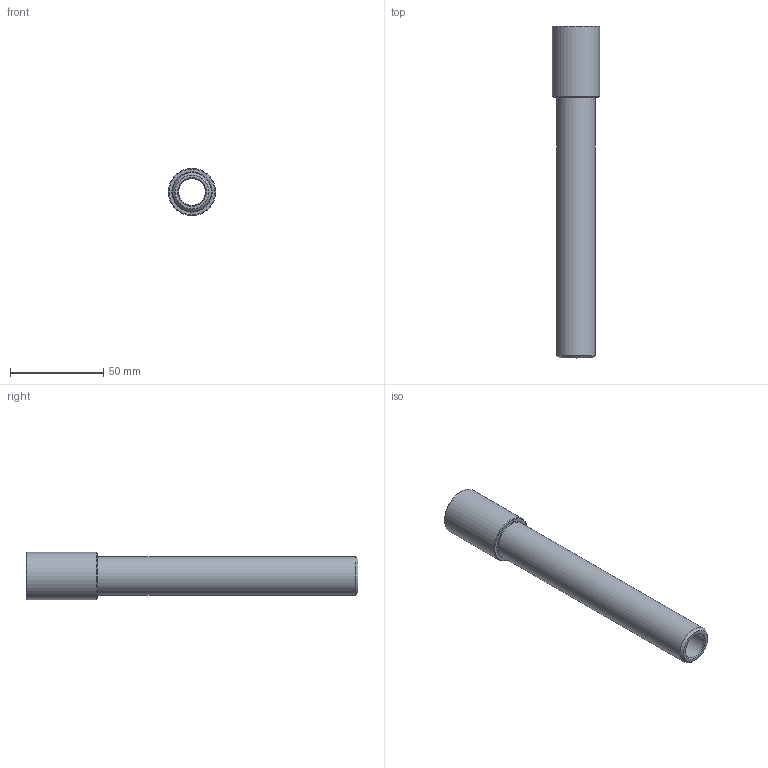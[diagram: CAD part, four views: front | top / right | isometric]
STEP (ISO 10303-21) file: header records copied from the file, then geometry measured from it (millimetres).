
FILE_DESCRIPTION(/* description */ (''),/* implementation_level */ '2;1');
FILE_NAME(/* name */ 'C:/Users/drich/Desktop/EP12X7 v1.step',/* time_stamp */ '2019-11-18T14:46:30-06:00',/* author */ (''),/* organization */ (''),/* preprocessor_version */ 'ST-DEVELOPER v18',/* originating_system */ 'Autodesk Translation Framework v8.12.0.6',/* authorisation */ '');
FILE_SCHEMA (('AUTOMOTIVE_DESIGN { 1 0 10303 214 3 1 1 }'));
Length unit declared in the file: inch
Products named in the file (2): EP12X7; EP12X4
Assembly tree (1 placements, depth 2):
  EP12X7
    EP12X4
Bounding box: 25.4 x 177.8 x 25.4 mm (x, y, z)
Volume: 35597.3 mm3; surface area: 21114.2 mm2
Topology: 1 solids, 1 shells, 23 faces, 55 edges, 37 vertices
Faces by surface type: plane 11, cone 7, cylinder 5
Full cylindrical faces by diameter (mm): 14.275 x1, 17.145 x1, 18.901 x1, 20.813 x1, 25.4 x1
Entity records: 740 total; most frequent: CARTESIAN_POINT 132, DIRECTION 124, ORIENTED_EDGE 110, EDGE_CURVE 55, AXIS2_PLACEMENT_3D 50, VERTEX_POINT 37, EDGE_LOOP 28, LINE 24
